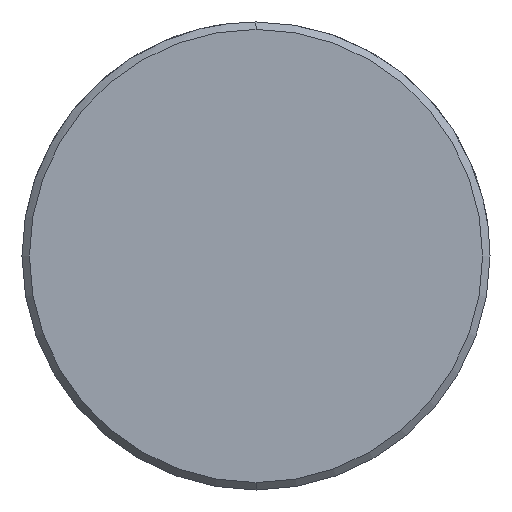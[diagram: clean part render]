
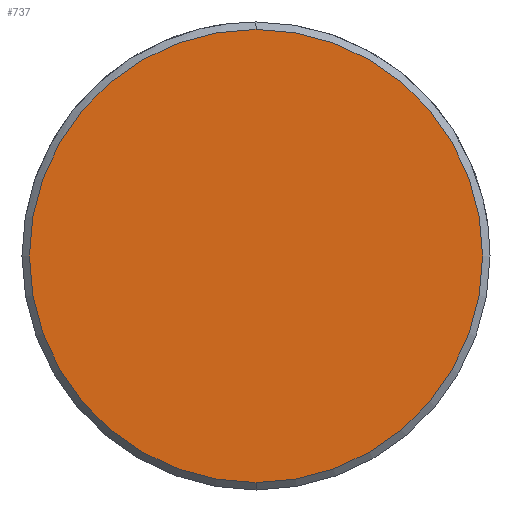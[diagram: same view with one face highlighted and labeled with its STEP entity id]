
A CAD part, left-side view. The second image highlights one B-rep face of the part: STEP entity #737.
In plain terms, the highlighted planar face has unit normal (-1, 0, 0).
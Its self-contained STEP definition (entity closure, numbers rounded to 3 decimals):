
#669=CARTESIAN_POINT('Vertex',(0.,0.,-9.2)) ;
#672=CARTESIAN_POINT('Axis2P3D Location',(0.,0.,0.)) ;
#676=CARTESIAN_POINT('Vertex',(0.,9.2,0.)) ;
#679=CARTESIAN_POINT('Axis2P3D Location',(0.,0.,0.)) ;
#683=CARTESIAN_POINT('Vertex',(0.,0.,9.2)) ;
#705=CARTESIAN_POINT('Axis2P3D Location',(0.,0.,0.)) ;
#709=CARTESIAN_POINT('Vertex',(0.,-9.2,0.)) ;
#712=CARTESIAN_POINT('Axis2P3D Location',(0.,0.,0.)) ;
#726=CARTESIAN_POINT('Axis2P3D Location',(0.,0.,0.)) ;
#673=DIRECTION('Axis2P3D Direction',(1.,0.,-0.)) ;
#680=DIRECTION('Axis2P3D Direction',(1.,0.,-0.)) ;
#706=DIRECTION('Axis2P3D Direction',(1.,0.,-0.)) ;
#713=DIRECTION('Axis2P3D Direction',(1.,0.,-0.)) ;
#727=DIRECTION('Axis2P3D Direction',(1.,0.,-0.)) ;
#728=DIRECTION('Axis2P3D XDirection',(-0.,0.,-1.)) ;
#674=AXIS2_PLACEMENT_3D('Circle Axis2P3D',#672,#673,$) ;
#681=AXIS2_PLACEMENT_3D('Circle Axis2P3D',#679,#680,$) ;
#707=AXIS2_PLACEMENT_3D('Circle Axis2P3D',#705,#706,$) ;
#714=AXIS2_PLACEMENT_3D('Circle Axis2P3D',#712,#713,$) ;
#729=AXIS2_PLACEMENT_3D('Plane Axis2P3D',#726,#727,#728) ;
#732=ORIENTED_EDGE('',*,*,#678,.F.) ;
#733=ORIENTED_EDGE('',*,*,#716,.F.) ;
#734=ORIENTED_EDGE('',*,*,#711,.F.) ;
#735=ORIENTED_EDGE('',*,*,#685,.F.) ;
#737=ADVANCED_FACE('549-16X120',(#736),#730,.F.) ;
#675=CIRCLE('generated circle',#674,9.2) ;
#682=CIRCLE('generated circle',#681,9.2) ;
#708=CIRCLE('generated circle',#707,9.2) ;
#715=CIRCLE('generated circle',#714,9.2) ;
#678=EDGE_CURVE('',#670,#677,#675,.T.) ;
#685=EDGE_CURVE('',#677,#684,#682,.T.) ;
#711=EDGE_CURVE('',#684,#710,#708,.T.) ;
#716=EDGE_CURVE('',#710,#670,#715,.T.) ;
#731=EDGE_LOOP('',(#732,#733,#734,#735)) ;
#736=FACE_OUTER_BOUND('',#731,.T.) ;
#730=PLANE('Plane',#729) ;
#670=VERTEX_POINT('',#669) ;
#677=VERTEX_POINT('',#676) ;
#684=VERTEX_POINT('',#683) ;
#710=VERTEX_POINT('',#709) ;
